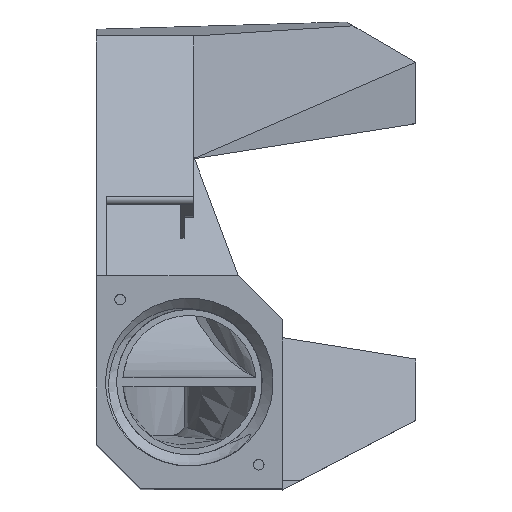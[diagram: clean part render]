
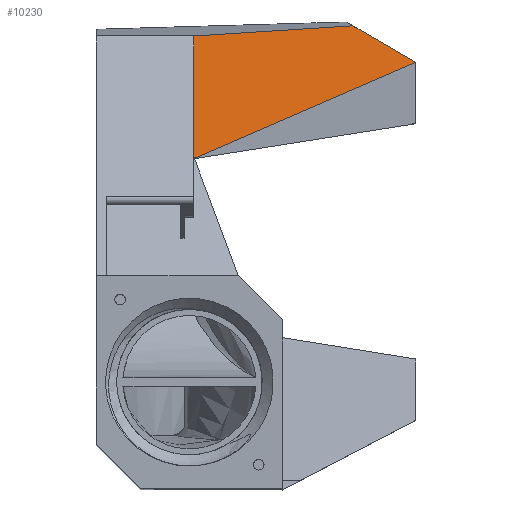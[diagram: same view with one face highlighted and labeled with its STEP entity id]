
A CAD part, top view. The second image highlights one B-rep face of the part: STEP entity #10230.
In plain terms, the highlighted planar face has unit normal (0.6, 0, 0.8).
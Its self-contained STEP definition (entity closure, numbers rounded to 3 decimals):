
#734=LINE('',#16956,#1589);
#825=LINE('',#17174,#1680);
#826=LINE('',#17175,#1681);
#827=LINE('',#17177,#1682);
#1589=VECTOR('',#13228,1000.);
#1680=VECTOR('',#13385,1000.);
#1681=VECTOR('',#13386,1000.);
#1682=VECTOR('',#13387,1000.);
#2784=ORIENTED_EDGE('',*,*,#5825,.T.);
#2785=ORIENTED_EDGE('',*,*,#5826,.T.);
#2786=ORIENTED_EDGE('',*,*,#5827,.T.);
#2787=ORIENTED_EDGE('',*,*,#5716,.T.);
#5716=EDGE_CURVE('',#7223,#7222,#734,.T.);
#5825=EDGE_CURVE('',#7222,#7315,#825,.T.);
#5826=EDGE_CURVE('',#7315,#7317,#826,.T.);
#5827=EDGE_CURVE('',#7317,#7223,#827,.T.);
#7222=VERTEX_POINT('',#16955);
#7223=VERTEX_POINT('',#16957);
#7315=VERTEX_POINT('',#17168);
#7317=VERTEX_POINT('',#17176);
#8352=EDGE_LOOP('',(#2784,#2785,#2786,#2787));
#8986=FACE_BOUND('',#8352,.T.);
#9582=PLANE('',#12201);
#10230=ADVANCED_FACE('',(#8986),#9582,.F.);
#12201=AXIS2_PLACEMENT_3D('',#17173,#13383,#13384);
#13228=DIRECTION('',(0.,-1.,0.));
#13383=DIRECTION('',(-0.6,0.,-0.8));
#13384=DIRECTION('',(-0.8,0.,0.6));
#13385=DIRECTION('',(0.755,0.329,-0.566));
#13386=DIRECTION('',(-0.726,0.419,0.545));
#13387=DIRECTION('',(-0.799,-0.052,0.599));
#16955=CARTESIAN_POINT('',(-20.,-12.737,-15.));
#16956=CARTESIAN_POINT('',(-20.,3.724,-15.));
#16957=CARTESIAN_POINT('',(-20.,1.087,-15.));
#17168=CARTESIAN_POINT('',(5.,-1.836,-33.749));
#17173=CARTESIAN_POINT('',(-20.,3.724,-15.));
#17174=CARTESIAN_POINT('',(-20.,-12.737,-15.));
#17175=CARTESIAN_POINT('',(-17.297,11.038,-17.027));
#17176=CARTESIAN_POINT('',(-2.089,2.257,-28.433));
#17177=CARTESIAN_POINT('',(-4.525,2.098,-26.605));
